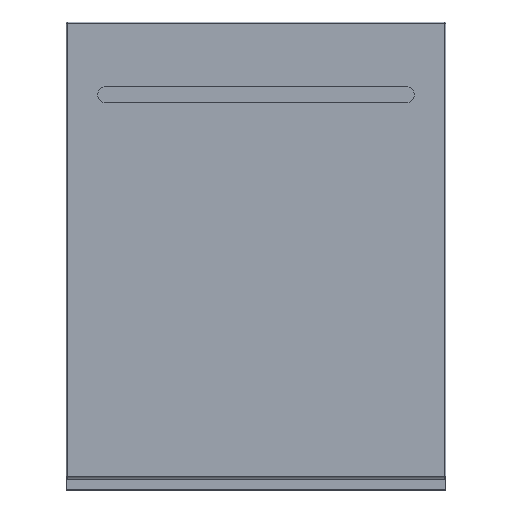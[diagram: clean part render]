
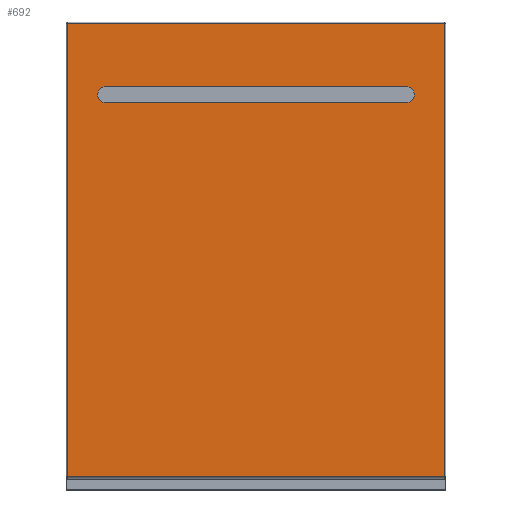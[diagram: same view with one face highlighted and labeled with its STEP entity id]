
A CAD part, top view. The second image highlights one B-rep face of the part: STEP entity #692.
In plain terms, the highlighted planar face has unit normal (0, 0, 1).
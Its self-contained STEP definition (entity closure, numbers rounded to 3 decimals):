
#123=CARTESIAN_POINT('',(-235.,254.5,7.5));
#124=DIRECTION('',(0.,0.,1.));
#125=DIRECTION('',(1.,0.,0.));
#126=AXIS2_PLACEMENT_3D('',#123,#124,#125);
#128=CARTESIAN_POINT('',(-235.,254.5,7.5));
#129=DIRECTION('',(0.,0.,1.));
#130=DIRECTION('',(-1.,0.,0.));
#131=AXIS2_PLACEMENT_3D('',#128,#129,#130);
#133=CARTESIAN_POINT('',(235.,254.5,7.5));
#134=DIRECTION('',(0.,0.,1.));
#135=DIRECTION('',(1.,0.,0.));
#136=AXIS2_PLACEMENT_3D('',#133,#134,#135);
#138=CARTESIAN_POINT('',(235.,254.5,7.5));
#139=DIRECTION('',(0.,0.,1.));
#140=DIRECTION('',(-1.,0.,0.));
#141=AXIS2_PLACEMENT_3D('',#138,#139,#140);
#143=DIRECTION('',(-1.,0.,0.));
#144=VECTOR('',#143,596.4);
#145=CARTESIAN_POINT('',(298.2,-348.7,7.5));
#146=LINE('',#145,#144);
#147=DIRECTION('',(0.,1.,0.));
#148=VECTOR('',#147,716.4);
#149=CARTESIAN_POINT('',(-298.2,-348.7,7.5));
#150=LINE('',#149,#148);
#151=DIRECTION('',(-1.,0.,0.));
#152=VECTOR('',#151,596.4);
#153=CARTESIAN_POINT('',(298.2,367.7,7.5));
#154=LINE('',#153,#152);
#155=DIRECTION('',(0.,-1.,0.));
#156=VECTOR('',#155,716.4);
#157=CARTESIAN_POINT('',(298.2,367.7,7.5));
#158=LINE('',#157,#156);
#418=CARTESIAN_POINT('',(-225.,254.5,7.5));
#419=CARTESIAN_POINT('',(-245.,254.5,7.5));
#420=VERTEX_POINT('',#418);
#421=VERTEX_POINT('',#419);
#422=CARTESIAN_POINT('',(245.,254.5,7.5));
#423=CARTESIAN_POINT('',(225.,254.5,7.5));
#424=VERTEX_POINT('',#422);
#425=VERTEX_POINT('',#423);
#486=CARTESIAN_POINT('',(298.2,-348.7,7.5));
#487=CARTESIAN_POINT('',(-298.2,-348.7,7.5));
#488=VERTEX_POINT('',#486);
#489=VERTEX_POINT('',#487);
#506=CARTESIAN_POINT('',(-298.2,367.7,7.5));
#507=VERTEX_POINT('',#506);
#508=CARTESIAN_POINT('',(298.2,367.7,7.5));
#509=VERTEX_POINT('',#508);
#668=CARTESIAN_POINT('',(-300.,369.5,7.5));
#669=DIRECTION('',(0.,0.,1.));
#670=DIRECTION('',(0.,-1.,0.));
#671=AXIS2_PLACEMENT_3D('',#668,#669,#670);
#672=PLANE('',#671);
#673=ORIENTED_EDGE('',*,*,#606,.T.);
#674=ORIENTED_EDGE('',*,*,#634,.T.);
#675=ORIENTED_EDGE('',*,*,#658,.F.);
#677=ORIENTED_EDGE('',*,*,#676,.T.);
#678=EDGE_LOOP('',(#673,#674,#675,#677));
#679=FACE_OUTER_BOUND('',#678,.F.);
#681=ORIENTED_EDGE('',*,*,#680,.T.);
#683=ORIENTED_EDGE('',*,*,#682,.T.);
#684=EDGE_LOOP('',(#681,#683));
#685=FACE_BOUND('',#684,.F.);
#687=ORIENTED_EDGE('',*,*,#686,.T.);
#689=ORIENTED_EDGE('',*,*,#688,.T.);
#690=EDGE_LOOP('',(#687,#689));
#691=FACE_BOUND('',#690,.F.);
#127=CIRCLE('',#126,10.);
#132=CIRCLE('',#131,10.);
#137=CIRCLE('',#136,10.);
#142=CIRCLE('',#141,10.);
#606=EDGE_CURVE('',#488,#489,#146,.T.);
#634=EDGE_CURVE('',#489,#507,#150,.T.);
#658=EDGE_CURVE('',#509,#507,#154,.T.);
#676=EDGE_CURVE('',#509,#488,#158,.T.);
#680=EDGE_CURVE('',#424,#425,#137,.T.);
#682=EDGE_CURVE('',#425,#424,#142,.T.);
#686=EDGE_CURVE('',#420,#421,#127,.T.);
#688=EDGE_CURVE('',#421,#420,#132,.T.);
#692=ADVANCED_FACE('',(#679,#685,#691),#672,.T.);
